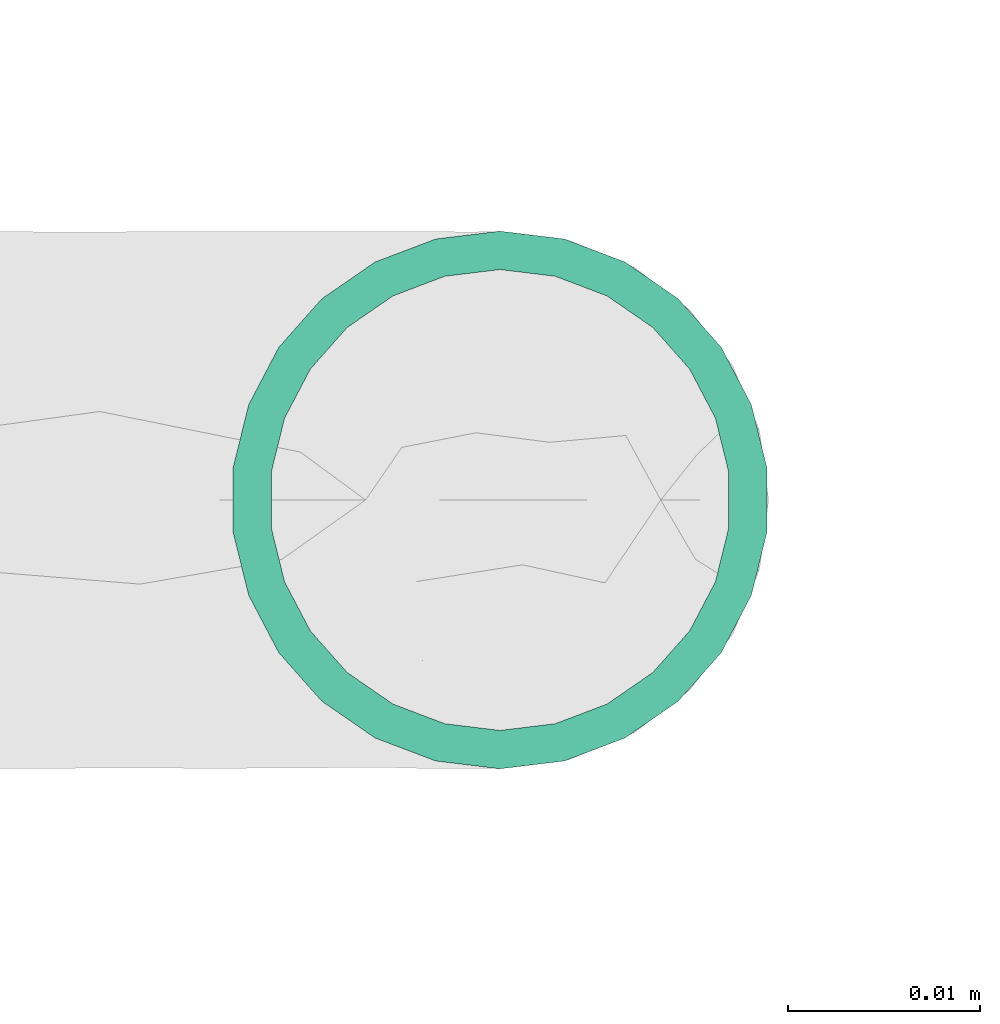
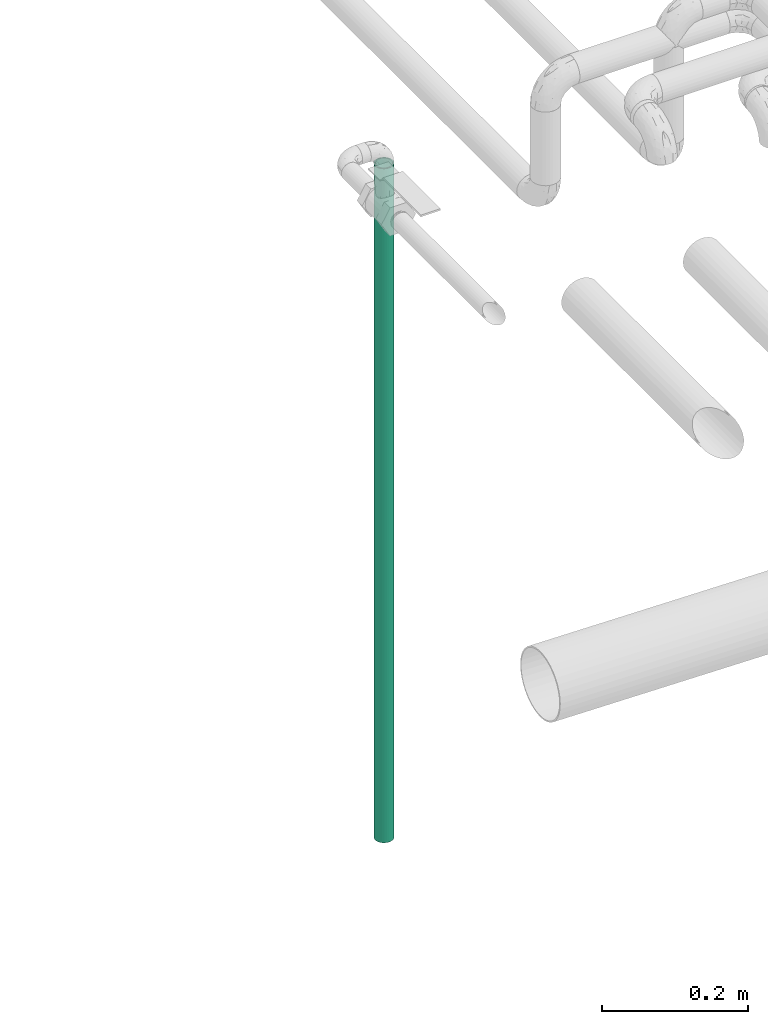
# One storey, part 4 of 35: 1 flow segment.
"""IFC2X3 building model written with IfcOpenShell, lengths in millimetres."""

import ifcopenshell
import ifcopenshell.guid

model = None  # the IFC model being written
_history = None  # IfcOwnerHistory: only IFC2X3 demands one
_inside = {}  # id of a spatial element -> (the spatial element, [elements in it])
_under = {}  # id of a project, library or spatial element -> (it, [spatial elements below it])
_declared = {}  # id of a project -> (the project, [libraries it declares])
_typed = {}  # id of a type object -> (the type object, [elements of that type])
_made_of = {}  # id of a material, layer set ... -> (it, [elements and type objects made of it])


def new_model(schema):
    """Start an empty IFC model of exactly this schema.

    Asked for "IFC4X3", IfcOpenShell would pick the latest addendum, in which some entities
    have other attributes; the version numbers below select the first issue.
    IFC2X3 requires an IfcOwnerHistory on every rooted entity: one is made here for all.
    """
    global model, _history
    if schema == "IFC4X3":
        model = ifcopenshell.file(schema_version=(4, 3, 0, 0))
    else:
        model = ifcopenshell.file(schema=schema)
    _inside.clear()
    _under.clear()
    _declared.clear()
    _typed.clear()
    _made_of.clear()
    _history = None
    if model.schema == "IFC2X3":
        org = make("IfcOrganization", Name="unknown")
        user = make(
            "IfcPersonAndOrganization",
            ThePerson=make("IfcPerson", FamilyName="unknown"),
            TheOrganization=org,
        )
        app = make(
            "IfcApplication",
            ApplicationDeveloper=org,
            Version="unknown",
            ApplicationFullName="unknown",
            ApplicationIdentifier="unknown",
        )
        _history = make(
            "IfcOwnerHistory",
            OwningUser=user,
            OwningApplication=app,
            ChangeAction="ADDED",
            CreationDate=0,
        )
    return model


def make(cls, **values):
    """One entity of the class cls with the attributes given. An attribute that is None is left unset."""
    return model.create_entity(
        cls, **{name: value for name, value in values.items() if value is not None}
    )


def entity(cls, *values):
    """Any entity or typed value of the class cls, its attributes in the order of the schema. None: left unset."""
    e = model.create_entity(cls)
    for i, value in enumerate(values):
        if value is not None:
            e[i] = value
    return e


def rooted(cls, **values):
    """An entity with a GlobalId (a new one), such as an element, a storey or a relation."""
    return make(cls, GlobalId=ifcopenshell.guid.new(), OwnerHistory=_history, **values)


def si_unit(unit_type, name, prefix=None):
    """IfcSIUnit, for example si_unit("LENGTHUNIT", "METRE", prefix="MILLI")."""
    return make("IfcSIUnit", UnitType=unit_type, Prefix=prefix, Name=name)


def converted_unit(unit_type, name, factor, base, dimensions=None, offset=None):
    """IfcConversionBasedUnit, such as the inch: factor (a typed value) times the base unit."""
    return make(
        "IfcConversionBasedUnit"
        if offset is None
        else "IfcConversionBasedUnitWithOffset",
        ConversionOffset=offset,
        Dimensions=None
        if dimensions is None
        else entity("IfcDimensionalExponents", *dimensions),
        UnitType=unit_type,
        Name=name,
        ConversionFactor=make(
            "IfcMeasureWithUnit", ValueComponent=factor, UnitComponent=base
        ),
    )


def derived_unit(unit_type, elements):
    """IfcDerivedUnit: a product of units, each with its exponent."""
    return make(
        "IfcDerivedUnit",
        Elements=[
            make("IfcDerivedUnitElement", Unit=unit, Exponent=power)
            for unit, power in elements
        ],
        UnitType=unit_type,
    )


def assignment(units):
    """IfcUnitAssignment: the units of a project."""
    return None if units is None else make("IfcUnitAssignment", Units=units)


def point(xyz):
    """IfcCartesianPoint."""
    return None if xyz is None else make("IfcCartesianPoint", Coordinates=xyz)


def direction(xyz):
    """IfcDirection."""
    return None if xyz is None else make("IfcDirection", DirectionRatios=xyz)


def frame(location, z_axis=None, x_axis=None):
    """IfcAxis2Placement3D, a coordinate frame: its origin and axes. An axis left out is left unset."""
    return make(
        "IfcAxis2Placement3D",
        Location=point(location),
        Axis=direction(z_axis),
        RefDirection=direction(x_axis),
    )


def frame_2d(location, x_axis=None):
    """IfcAxis2Placement2D, a coordinate frame in the plane: its origin and x axis."""
    return make(
        "IfcAxis2Placement2D", Location=point(location), RefDirection=direction(x_axis)
    )


def origin_with_axes():
    """The frame at (0, 0, 0) with the z axis (0, 0, 1) and the x axis (1, 0, 0) written out."""
    return frame((0.0, 0.0, 0.0), z_axis=(0.0, 0.0, 1.0), x_axis=(1.0, 0.0, 0.0))


def origin_2d_with_axis():
    """The frame at (0, 0) in the plane with the x axis (1, 0) written out."""
    return frame_2d((0.0, 0.0), x_axis=(1.0, 0.0))


def place(relative_to, where):
    """IfcLocalPlacement: puts the frame where relative to a parent placement (None: the world)."""
    return make(
        "IfcLocalPlacement", PlacementRelTo=relative_to, RelativePlacement=where
    )


def context(
    kind, dimensions, precision=None, world=None, true_north=None, identifier=None
):
    """IfcGeometricRepresentationContext, for example the 3D "Model" context."""
    return make(
        "IfcGeometricRepresentationContext",
        ContextIdentifier=identifier,
        ContextType=kind,
        CoordinateSpaceDimension=dimensions,
        Precision=precision,
        WorldCoordinateSystem=world,
        TrueNorth=true_north,
    )


def subcontext(parent, identifier, kind, view, scale=None):
    """IfcGeometricRepresentationSubContext, for example "Body" below "Model"."""
    return make(
        "IfcGeometricRepresentationSubContext",
        ContextIdentifier=identifier,
        ContextType=kind,
        ParentContext=parent,
        TargetScale=scale,
        TargetView=view,
    )


def project(units=None, contexts=None):
    """IfcProject with its units and contexts."""
    return rooted(
        "IfcProject",
        Name="project",
        RepresentationContexts=contexts,
        UnitsInContext=assignment(units),
    )


def spatial(cls, under=None, at=None, **own):
    """A site, building, storey or space (cls), placed at a placement, below another one or the project."""
    s = rooted(cls, ObjectPlacement=at, **own)
    if under is not None:
        _under.setdefault(under.id(), (under, []))[1].append(s)
    return s


def profile(cls, at=None, kind="AREA", **sizes):
    """A parametric profile (cls). Its sizes go by their IFC names, for example OverallWidth=200.0."""
    return make(cls, ProfileType=kind, Position=at, **sizes)


def hollow_circle(**sizes):
    """IfcCircleHollowProfileDef."""
    return profile("IfcCircleHollowProfileDef", **sizes)


def extrude(swept, where, along, depth):
    """IfcExtrudedAreaSolid: the profile swept, set in the frame where, extruded along a direction by depth."""
    return make(
        "IfcExtrudedAreaSolid",
        SweptArea=swept,
        Position=where,
        ExtrudedDirection=direction(along),
        Depth=depth,
    )


def shape(context_of_items, identifier, shape_type, items):
    """IfcShapeRepresentation: the items that make up one representation, for example the "Body"."""
    return make(
        "IfcShapeRepresentation",
        ContextOfItems=context_of_items,
        RepresentationIdentifier=identifier,
        RepresentationType=shape_type,
        Items=items,
    )


def source(mapping_origin, context_of_items, identifier, shape_type, items):
    """IfcRepresentationMap: a shape defined once, which mapped items show again and again."""
    return make(
        "IfcRepresentationMap",
        MappingOrigin=mapping_origin,
        MappedRepresentation=shape(context_of_items, identifier, shape_type, items),
    )


def transform(
    local_origin,
    x_axis=None,
    y_axis=None,
    z_axis=None,
    scale=None,
    scale2=None,
    scale3=None,
    uniform=True,
):
    """IfcCartesianTransformationOperator3D, or its non-uniform kind. x_axis, y_axis, z_axis: its Axis1, 2, 3."""
    if uniform:
        return make(
            "IfcCartesianTransformationOperator3D",
            Axis1=direction(x_axis),
            Axis2=direction(y_axis),
            LocalOrigin=point(local_origin),
            Scale=scale,
            Axis3=direction(z_axis),
        )
    return make(
        "IfcCartesianTransformationOperator3DnonUniform",
        Axis1=direction(x_axis),
        Axis2=direction(y_axis),
        LocalOrigin=point(local_origin),
        Scale=scale,
        Axis3=direction(z_axis),
        Scale2=scale2,
        Scale3=scale3,
    )


def mapped(mapping_source, mapping_target):
    """IfcMappedItem: shows the shape of a source again, moved by a transform."""
    return make(
        "IfcMappedItem", MappingSource=mapping_source, MappingTarget=mapping_target
    )


def made_of(thing, what):
    """Note that an element or type object is made of a material, layer set ...; save() writes the relation."""
    if what is not None:
        _made_of.setdefault(what.id(), (what, []))[1].append(thing)
    return thing


def type_object(cls, material=None, **own):
    """A type object (cls), such as IfcWallType, which elements share."""
    return made_of(rooted(cls, **own), material)


def element(
    cls,
    number,
    at=None,
    inside=None,
    cuts=None,
    type_object=None,
    material=None,
    context=None,
    identifier="Body",
    shape_type=None,
    held_by="IfcProductDefinitionShape",
    body=None,
    shapes=None,
    **own,
):
    """One element of the class cls, such as IfcWall. Its Tag is "e" and its number.

    at: its placement. inside: the storey or other place that contains it. cuts: it is an
    opening in that element (IfcRelVoidsElement). A single representation is given by context,
    identifier, shape_type and body (its items); several are given by shapes. held_by: the class
    of the entity that holds the representations. save() writes the other relations.
    """
    e = rooted(cls, Tag="e%d" % number, ObjectPlacement=at, **own)
    if body is not None:
        shapes = [shape(context, identifier, shape_type, body)]
    if shapes is not None:
        e.Representation = make(held_by, Representations=shapes)
    if inside is not None:
        _inside.setdefault(inside.id(), (inside, []))[1].append(e)
    if cuts is not None:
        rooted(
            "IfcRelVoidsElement", RelatingBuildingElement=cuts, RelatedOpeningElement=e
        )
    if type_object is not None:
        _typed.setdefault(type_object.id(), (type_object, []))[1].append(e)
    return made_of(e, material)


def aggregate(whole, parts):
    """IfcRelAggregates: a whole, such as a stair, and the parts it consists of."""
    return rooted("IfcRelAggregates", RelatingObject=whole, RelatedObjects=parts)


def save(model, path):
    """Write the relations noted so far, then the file.

    IfcRelAggregates (storeys below a building ...), IfcRelContainedInSpatialStructure (elements
    in a storey), IfcRelDefinesByType, IfcRelAssociatesMaterial and IfcRelDeclares: one each for
    every whole, place, type object, material and project.
    """
    for whole, parts in _under.values():
        aggregate(whole, parts)
    for where, things in _inside.values():
        rooted(
            "IfcRelContainedInSpatialStructure",
            RelatedElements=things,
            RelatingStructure=where,
        )
    for kind, things in _typed.values():
        rooted("IfcRelDefinesByType", RelatedObjects=things, RelatingType=kind)
    for what, things in _made_of.values():
        rooted("IfcRelAssociatesMaterial", RelatedObjects=things, RelatingMaterial=what)
    for by, libraries in _declared.values():
        rooted("IfcRelDeclares", RelatingContext=by, RelatedDefinitions=libraries)
    model.write(path)


model = new_model("IFC2X3")

# Units and contexts
model_context = context("Model", 3, precision=0.01, world=frame((0.0, 4.29681676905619e-09, 0.0)), true_north=direction((4.01073788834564e-13, 1.0)))
plan_context = context("Plan", 3, precision=0.01, world=frame((0.0, 4.29681676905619e-09, 0.0)), true_north=direction((4.01073788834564e-13, 1.0)))
body_context = subcontext(model_context, "Body", "Model", "MODEL_VIEW")
ifc_project = project(units=[converted_unit("PLANEANGLEUNIT", "DEGREE", entity("IfcPositiveLengthMeasure", 0.0174532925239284), si_unit("PLANEANGLEUNIT", "RADIAN"), dimensions=[0, 0, 0, 0, 0, 0, 0]), si_unit("AREAUNIT", "SQUARE_METRE"), si_unit("LENGTHUNIT", "METRE", prefix="MILLI"), si_unit("MASSUNIT", "GRAM", prefix="KILO"), si_unit("POWERUNIT", "WATT"), si_unit("PRESSUREUNIT", "PASCAL"), si_unit("FORCEUNIT", "NEWTON", prefix="KILO"), si_unit("ELECTRICVOLTAGEUNIT", "VOLT"), si_unit("ELECTRICCURRENTUNIT", "AMPERE"), si_unit("THERMODYNAMICTEMPERATUREUNIT", "DEGREE_CELSIUS"), si_unit("TIMEUNIT", "SECOND"), si_unit("VOLUMEUNIT", "CUBIC_METRE"), derived_unit("LINEARVELOCITYUNIT", [(si_unit("LENGTHUNIT", "METRE"), 1), (si_unit("TIMEUNIT", "SECOND"), -1)]), derived_unit("VOLUMETRICFLOWRATEUNIT", [(si_unit("VOLUMEUNIT", "CUBIC_METRE"), 1), (si_unit("TIMEUNIT", "SECOND"), -1)]), derived_unit("THERMALTRANSMITTANCEUNIT", [(si_unit("POWERUNIT", "WATT"), 1), (si_unit("THERMODYNAMICTEMPERATUREUNIT", "KELVIN"), -1), (si_unit("AREAUNIT", "SQUARE_METRE"), -1)]), derived_unit("SOUNDPRESSUREUNIT", [(si_unit("PRESSUREUNIT", "PASCAL"), 1)])], contexts=[model_context, plan_context])

# Site, building, storey
site_placement = place(None, frame((0.0, -4.29681676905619e-09, 0.0), z_axis=(0.0, 0.0, 1.0), x_axis=(1.0, 0.0, 0.0)))
site = spatial("IfcSite", under=ifc_project, at=site_placement, Name="ENGM", CompositionType="ELEMENT")
building_placement = place(site_placement, frame((0.0, 4.29681676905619e-09, 0.0), z_axis=(0.0, 0.0, 1.0), x_axis=(1.0, 0.0, 0.0)))
building = spatial("IfcBuilding", under=site, at=building_placement, Name="TH", CompositionType="ELEMENT")
storey_placement = place(building_placement, frame((0.0, 0.0, 210200.0), z_axis=(0.0, 0.0, 1.0), x_axis=(1.0, 0.0, 0.0)))
storey = spatial("IfcBuildingStorey", under=building, at=storey_placement, Name="Nivå F - 0,7 m", CompositionType="ELEMENT", Elevation=210200.0)

# Flow segment
pipe_segment_type = type_object("IfcPipeSegmentType", Name="Kobberrør", PredefinedType="RIGIDSEGMENT")
shared_shape = source(origin_with_axes(), body_context, "Body", "SweptSolid", [
    extrude(hollow_circle(Radius=14.0, WallThickness=2.0, at=origin_2d_with_axis()), frame((0.0, 0.0, 0.0), z_axis=(1.0, 0.0, 0.0), x_axis=(0.0, 1.0, 0.0)), (0.0, 0.0, 1.0), 1130.5),
])
flow_segment_placement = place(storey_placement, frame((895219.90262, 480387.5, 1897.0), z_axis=(1.0, 0.0, 0.0), x_axis=(0.0, 0.0, 1.0)))
element("IfcFlowSegment", 1, at=flow_segment_placement, inside=storey, type_object=pipe_segment_type, Name="Kobberrør", context=body_context, shape_type="MappedRepresentation", body=[
    mapped(shared_shape, transform((0.0, 0.0, 0.0), scale=1.0)),
])

save(model, "model.ifc")
